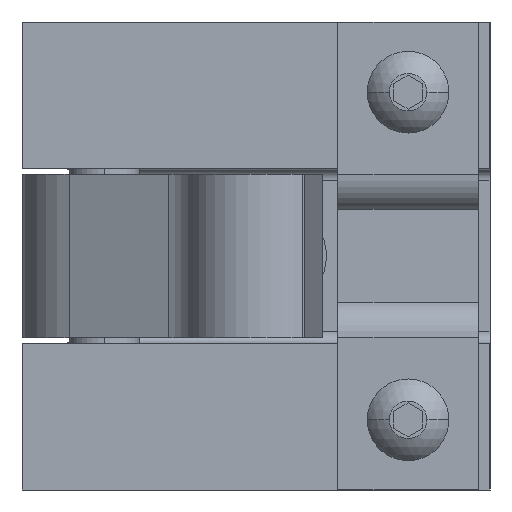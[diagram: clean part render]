
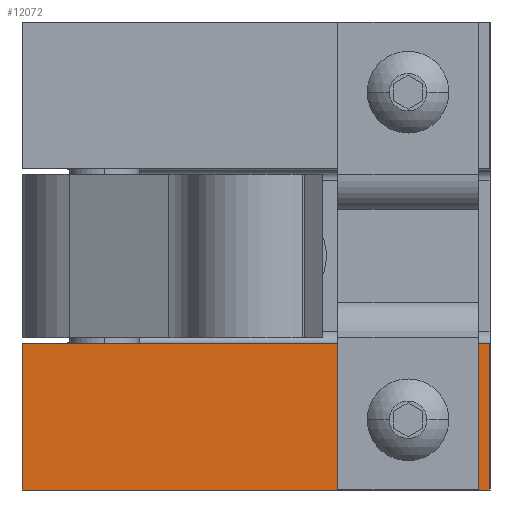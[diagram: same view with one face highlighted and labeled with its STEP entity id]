
A CAD part, left-side view. The second image highlights one B-rep face of the part: STEP entity #12072.
In plain terms, the highlighted planar face has unit normal (-1, 0, 0).
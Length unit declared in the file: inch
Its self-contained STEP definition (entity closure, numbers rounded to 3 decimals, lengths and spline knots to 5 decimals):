
#2200 = VERTEX_POINT ( 'NONE', #14827 ) ;
#2202 = EDGE_CURVE ( 'NONE', #2200, #2203, #14826, .T. ) ;
#2203 = VERTEX_POINT ( 'NONE', #14821 ) ;
#7432 = CARTESIAN_POINT ( 'NONE',  ( 7.18951, 6.00404, -1.715 ) ) ;
#7433 = DIRECTION ( 'NONE',  ( 0., -1., 0. ) ) ;
#7434 = VECTOR ( 'NONE', #7433, 39.37008 ) ;
#7435 = CARTESIAN_POINT ( 'NONE',  ( 7.18951, 3.50404, -1.715 ) ) ;
#7436 = LINE ( 'NONE', #7435, #7434 ) ;
#7437 = DIRECTION ( 'NONE',  ( 0., 0., 1. ) ) ;
#7438 = DIRECTION ( 'NONE',  ( -1., 0., 0. ) ) ;
#7439 = AXIS2_PLACEMENT_3D ( 'NONE', #7444, #7438, #7437 ) ;
#7440 = CIRCLE ( 'NONE', #7439, 0.125 ) ;
#7441 = DIRECTION ( 'NONE',  ( 0., 0., 1. ) ) ;
#7442 = DIRECTION ( 'NONE',  ( -1., 0., 0. ) ) ;
#7443 = CARTESIAN_POINT ( 'NONE',  ( 7.18951, 3.50404, -2.5 ) ) ;
#7444 = CARTESIAN_POINT ( 'NONE',  ( 7.18951, 3.94154, -2.125 ) ) ;
#7445 = AXIS2_PLACEMENT_3D ( 'NONE', #7443, #7442, #7441 ) ;
#7446 = PLANE ( 'NONE',  #7445 ) ;
#7447 = FACE_OUTER_BOUND ( 'NONE', #12084, .T. ) ;
#7448 = FACE_BOUND ( 'NONE', #12076, .T. ) ;
#7552 = CARTESIAN_POINT ( 'NONE',  ( 7.18951, 3.50404, -2.5 ) ) ;
#7554 = DIRECTION ( 'NONE',  ( 0., 0., 1. ) ) ;
#7555 = VECTOR ( 'NONE', #7554, 39.37008 ) ;
#7557 = CARTESIAN_POINT ( 'NONE',  ( 7.18951, 3.50404, -2.5 ) ) ;
#7558 = LINE ( 'NONE', #7557, #7555 ) ;
#7568 = CARTESIAN_POINT ( 'NONE',  ( 7.18951, 3.50404, -1.715 ) ) ;
#7693 = DIRECTION ( 'NONE',  ( 0., -1., 0. ) ) ;
#7695 = VECTOR ( 'NONE', #7693, 39.37008 ) ;
#7697 = CARTESIAN_POINT ( 'NONE',  ( 7.18951, 3.50404, -2.5 ) ) ;
#7698 = LINE ( 'NONE', #7697, #7695 ) ;
#7704 = CARTESIAN_POINT ( 'NONE',  ( 7.18951, 6.00404, -2.5 ) ) ;
#7706 = DIRECTION ( 'NONE',  ( 0., 0., 1. ) ) ;
#7708 = VECTOR ( 'NONE', #7706, 39.37008 ) ;
#7709 = CARTESIAN_POINT ( 'NONE',  ( 7.18951, 6.00404, -2.5 ) ) ;
#7711 = LINE ( 'NONE', #7709, #7708 ) ;
#12072 = ADVANCED_FACE ( 'NONE', ( #7448, #7447 ), #7446, .T. ) ;
#12076 = EDGE_LOOP ( 'NONE', ( #12078, #12082 ) ) ;
#12078 = ORIENTED_EDGE ( 'NONE', *, *, #12081, .F. ) ;
#12081 = EDGE_CURVE ( 'NONE', #2203, #2200, #7440, .T. ) ;
#12082 = ORIENTED_EDGE ( 'NONE', *, *, #2202, .F. ) ;
#12084 = EDGE_LOOP ( 'NONE', ( #12086, #12181, #12184, #12186 ) ) ;
#12086 = ORIENTED_EDGE ( 'NONE', *, *, #12088, .F. ) ;
#12088 = EDGE_CURVE ( 'NONE', #12089, #12129, #7436, .T. ) ;
#12089 = VERTEX_POINT ( 'NONE', #7432 ) ;
#12129 = VERTEX_POINT ( 'NONE', #7568 ) ;
#12137 = EDGE_CURVE ( 'NONE', #12139, #12129, #7558, .T. ) ;
#12139 = VERTEX_POINT ( 'NONE', #7552 ) ;
#12181 = ORIENTED_EDGE ( 'NONE', *, *, #12182, .F. ) ;
#12182 = EDGE_CURVE ( 'NONE', #12183, #12089, #7711, .T. ) ;
#12183 = VERTEX_POINT ( 'NONE', #7704 ) ;
#12184 = ORIENTED_EDGE ( 'NONE', *, *, #12185, .T. ) ;
#12185 = EDGE_CURVE ( 'NONE', #12183, #12139, #7698, .T. ) ;
#12186 = ORIENTED_EDGE ( 'NONE', *, *, #12137, .T. ) ;
#14821 = CARTESIAN_POINT ( 'NONE',  ( 7.18951, 3.94154, -2. ) ) ;
#14822 = DIRECTION ( 'NONE',  ( 0., 0., 1. ) ) ;
#14823 = DIRECTION ( 'NONE',  ( -1., 0., 0. ) ) ;
#14824 = CARTESIAN_POINT ( 'NONE',  ( 7.18951, 3.94154, -2.125 ) ) ;
#14825 = AXIS2_PLACEMENT_3D ( 'NONE', #14824, #14823, #14822 ) ;
#14826 = CIRCLE ( 'NONE', #14825, 0.125 ) ;
#14827 = CARTESIAN_POINT ( 'NONE',  ( 7.18951, 3.94154, -2.25 ) ) ;
